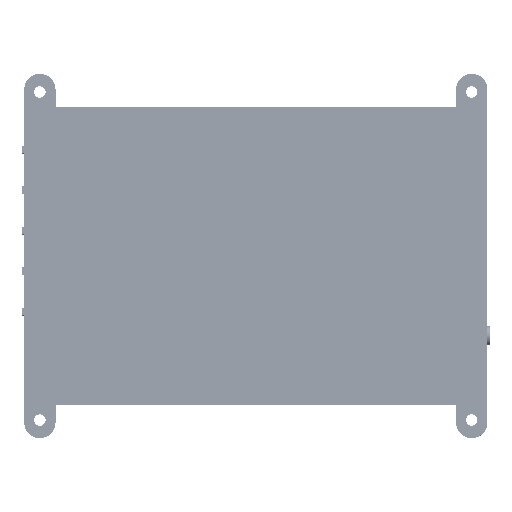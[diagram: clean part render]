
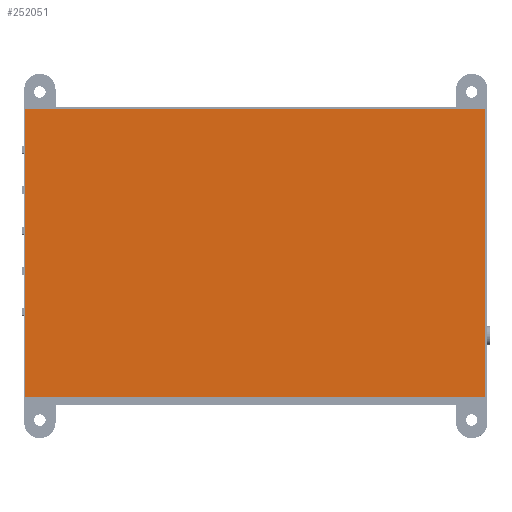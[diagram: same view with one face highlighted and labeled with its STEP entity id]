
A CAD part, top view. The second image highlights one B-rep face of the part: STEP entity #252051.
In plain terms, the highlighted planar face has unit normal (0, 0, 1) as drawn and (0, 0, -1) by its records, which use the part's own axes.
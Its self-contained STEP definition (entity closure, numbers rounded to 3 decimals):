
#251919 = EDGE_CURVE('',#251920,#251922,#251924,.T.);
#251920 = VERTEX_POINT('',#251921);
#251921 = CARTESIAN_POINT('',(120.4,0.,0.));
#251922 = VERTEX_POINT('',#251923);
#251923 = CARTESIAN_POINT('',(0.,0.,0.));
#251924 = LINE('',#251925,#251926);
#251925 = CARTESIAN_POINT('',(120.4,0.,0.));
#251926 = VECTOR('',#251927,1.);
#251927 = DIRECTION('',(-1.,0.,0.));
#251959 = EDGE_CURVE('',#251922,#251960,#251962,.T.);
#251960 = VERTEX_POINT('',#251961);
#251961 = CARTESIAN_POINT('',(0.,75.55,0.));
#251962 = LINE('',#251963,#251964);
#251963 = CARTESIAN_POINT('',(0.,0.,0.));
#251964 = VECTOR('',#251965,1.);
#251965 = DIRECTION('',(0.,1.,0.));
#251990 = EDGE_CURVE('',#251960,#251991,#251993,.T.);
#251991 = VERTEX_POINT('',#251992);
#251992 = CARTESIAN_POINT('',(120.4,75.55,0.));
#251993 = LINE('',#251994,#251995);
#251994 = CARTESIAN_POINT('',(0.,75.55,0.));
#251995 = VECTOR('',#251996,1.);
#251996 = DIRECTION('',(1.,0.,0.));
#252021 = EDGE_CURVE('',#251991,#251920,#252022,.T.);
#252022 = LINE('',#252023,#252024);
#252023 = CARTESIAN_POINT('',(120.4,75.55,0.));
#252024 = VECTOR('',#252025,1.);
#252025 = DIRECTION('',(0.,-1.,0.));
#252051 = ADVANCED_FACE('',(#252052),#252058,.T.);
#252052 = FACE_BOUND('',#252053,.T.);
#252053 = EDGE_LOOP('',(#252054,#252055,#252056,#252057));
#252054 = ORIENTED_EDGE('',*,*,#251919,.T.);
#252055 = ORIENTED_EDGE('',*,*,#251959,.T.);
#252056 = ORIENTED_EDGE('',*,*,#251990,.T.);
#252057 = ORIENTED_EDGE('',*,*,#252021,.T.);
#252058 = PLANE('',#252059);
#252059 = AXIS2_PLACEMENT_3D('',#252060,#252061,#252062);
#252060 = CARTESIAN_POINT('',(0.,0.,0.));
#252061 = DIRECTION('',(0.,0.,-1.));
#252062 = DIRECTION('',(-1.,0.,0.));
